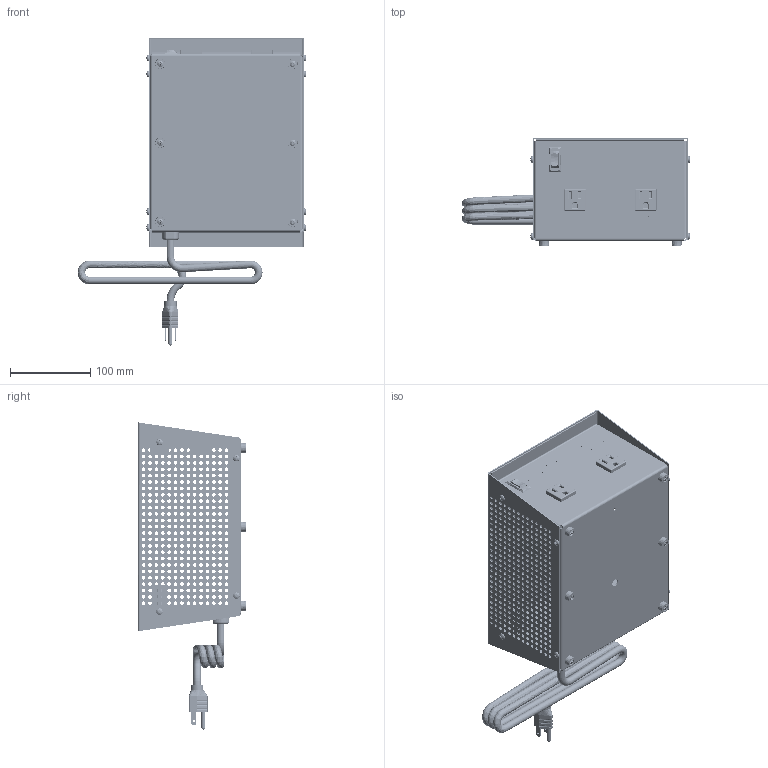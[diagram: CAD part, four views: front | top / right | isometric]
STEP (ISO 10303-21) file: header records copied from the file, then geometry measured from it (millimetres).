
FILE_DESCRIPTION(/* description */ (''),/* implementation_level */ '2;1');
FILE_NAME(/* name */ '178ET.stp',/* time_stamp */ '2026-06-02T15:10:21-04:00',/* author */ ('tfoster'),/* organization */ (''),/* preprocessor_version */ 'ST-DEVELOPER v20.1',/* originating_system */ 'Autodesk Inventor 2026',/* authorisation */ '');
FILE_SCHEMA (('AUTOMOTIVE_DESIGN { 1 0 10303 214 3 1 1 }'));
Products named in the file (11): 178ET; MTGR70763-2B; MTGR70763-1B; Receptacle; Power Switch Assembly; Power Switch; Power Switch pt; Cored 2; 7amp Reset Switch; Feet; 8-32 screw
Assembly tree (29 placements, depth 3):
  178ET
    MTGR70763-2B
    MTGR70763-1B
    Receptacle  x2
    Power Switch Assembly
      Power Switch
      Power Switch pt
    Cored 2
    7amp Reset Switch
    Feet  x6
    8-32 screw  x14
Bounding box: 285.04 x 134.8 x 382.93 mm (x, y, z)
Volume: 440421.2 mm3; surface area: 490079.7 mm2
Topology: 28 solids, 28 shells, 2715 faces, 7497 edges, 4940 vertices
Faces by surface type: cylinder 1259, plane 1056, bspline 249, cone 92, torus 36, sphere 23
Full cylindrical faces by diameter (mm): 1 x1, 1.803 x3, 1.905 x2, 2.286 x1, 3 x2, 3.134 x98, 3.81 x8, 4.064 x6, 4.14 x1, 4.166 x84, 4.496 x700, 4.775 x1, 5.41 x6, 5.537 x8, 7.62 x6, 8.179 x14, 9.5 x5, 9.779 x1, 11 x1, 15.621 x1
Entity records: 67886 total; most frequent: CARTESIAN_POINT 16114, ORIENTED_EDGE 10276, DIRECTION 9736, EDGE_CURVE 5138, EDGE_LOOP 3414, AXIS2_PLACEMENT_3D 3393, VERTEX_POINT 3390, LINE 2950
